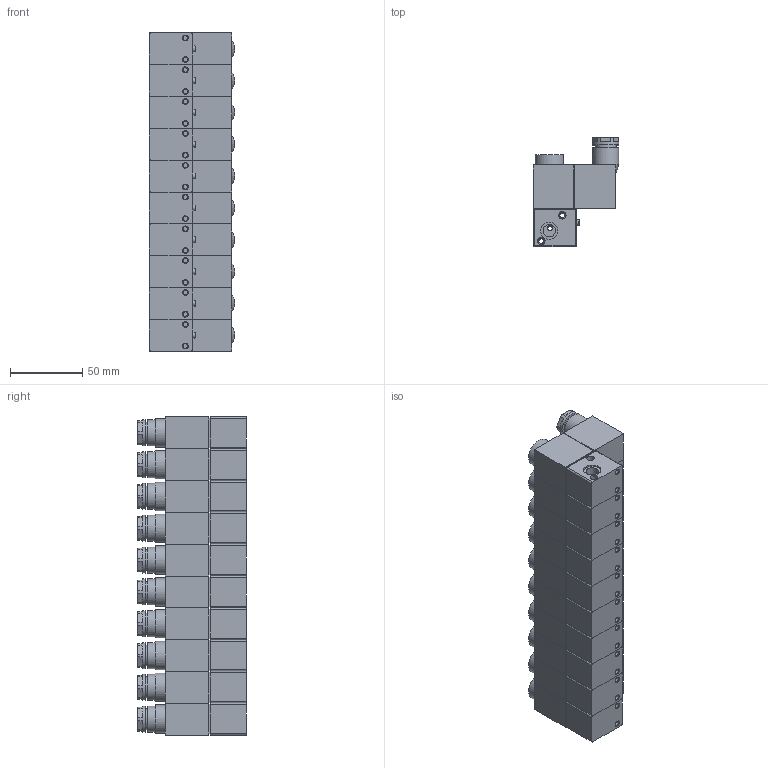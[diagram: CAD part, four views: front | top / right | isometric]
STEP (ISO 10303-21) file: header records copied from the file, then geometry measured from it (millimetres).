
FILE_DESCRIPTION(/* description */ ('STEP AP214'),/* implementation_level */ '2;1');
FILE_NAME(/* name */ '86-MS-3V-10-xxx.stp',/* time_stamp */ '2026-01-15T09:32:22+01:00',/* author */ ('Tschernatsch'),/* organization */ ('CADENAS'),/* preprocessor_version */ 'ST-DEVELOPER v20',/* originating_system */ 'Autodesk Inventor 2024',/* authorisation */ ' ');
FILE_SCHEMA (('AUTOMOTIVE_DESIGN { 1 0 10303 214 3 1 1 }'));
Length unit declared in the file: millimetre
Products named in the file (3): 3v1-06-LD-DC24V-10F; 3v1-06-LD-DC24V-10F3; 3v1-06-LD-DC24V-10F2
Assembly tree (20 placements, depth 2):
  3v1-06-LD-DC24V-10F
    3v1-06-LD-DC24V-10F3  x10
    3v1-06-LD-DC24V-10F2  x10
Bounding box: 59 x 75 x 220 mm (x, y, z)
Volume: 581980.5 mm3; surface area: 148607.5 mm2
Topology: 20 solids, 20 shells, 900 faces, 1950 edges, 1290 vertices
Faces by surface type: plane 610, cylinder 250, cone 40
Full cylindrical faces by diameter (mm): 3.242 x20, 3.5 x30, 4 x10, 4.3 x10, 5.2 x40, 8.566 x30, 11 x10, 12 x20, 14.4 x10, 18 x20, 19.6 x10
Entity records: 2745 total; most frequent: DIRECTION 493, CARTESIAN_POINT 439, ORIENTED_EDGE 390, EDGE_CURVE 195, AXIS2_PLACEMENT_3D 186, VERTEX_POINT 129, LINE 121, VECTOR 121
